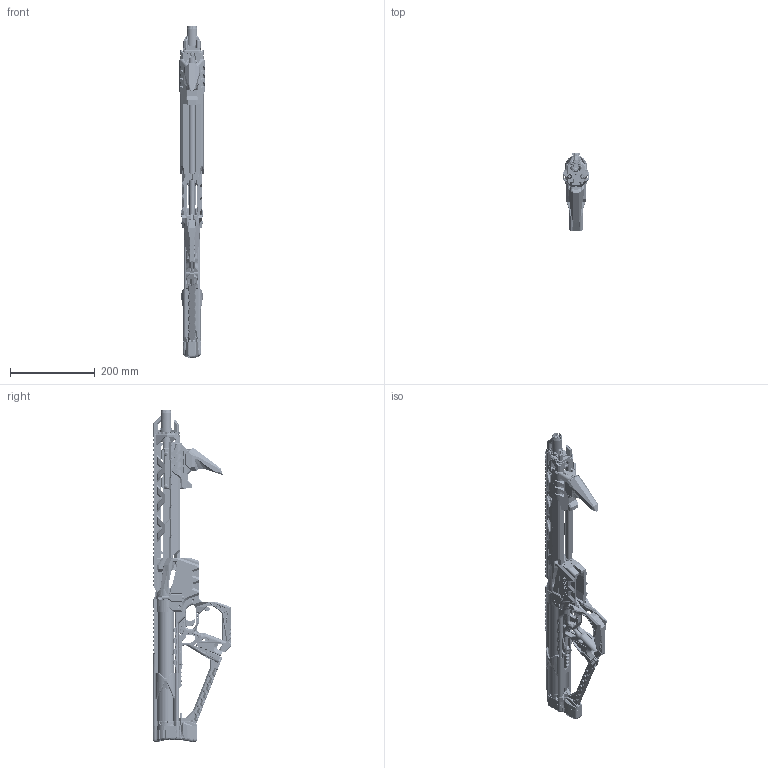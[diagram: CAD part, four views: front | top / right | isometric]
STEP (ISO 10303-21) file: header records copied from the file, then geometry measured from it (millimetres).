
FILE_DESCRIPTION(/* description */ ('Alibre Inc.'),/* implementation_level */ '2;1');
FILE_NAME(/* name */ 'export-797A43D0-AD46-4C5B-9FB8-11F86EFAF678',/* time_stamp */ '2019-11-09T11:16:06-05:00',/* author */ (''),/* organization */ (''),/* preprocessor_version */ 'ST-DEVELOPER v17',/* originating_system */ 'Alibre',/* authorisation */ '');
FILE_SCHEMA (('AUTOMOTIVE_DESIGN'));
Length unit declared in the file: inch
Products named in the file (61): 90402A821; 90273A108; 90276A837; 98330A120; 93330A507
Bounding box: 61.91 x 185.74 x 782.7 mm (x, y, z)
Volume: 1517644.7 mm3; surface area: 755008.1 mm2
Topology: 95 solids, 95 shells, 8756 faces, 24619 edges, 16002 vertices
Faces by surface type: plane 5144, cylinder 2274, bspline 627, cone 427, torus 234, sphere 42, extrusion 8
Full cylindrical faces by diameter (mm): 1.587 x2, 2.286 x7, 2.413 x19, 2.54 x9, 3.556 x11, 3.81 x9, 4.064 x4, 4.089 x6, 4.318 x1, 4.699 x7, 4.762 x1, 4.763 x26, 4.826 x1, 5.08 x3, 5.334 x4, 5.461 x4, 5.588 x40, 5.842 x5, 6.35 x2, 7.112 x1, 7.938 x4, 8.484 x1, 9.144 x1, 9.398 x1, 9.525 x3, 10.414 x1, 11.684 x7, 12.7 x3, 13.157 x1, 13.208 x1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
Entity records: 268062 total; most frequent: CARTESIAN_POINT 99358, ORIENTED_EDGE 39370, DIRECTION 27209, EDGE_CURVE 19685, VERTEX_POINT 12973, VECTOR 12102, LINE 12094, AXIS2_PLACEMENT_3D 9504
